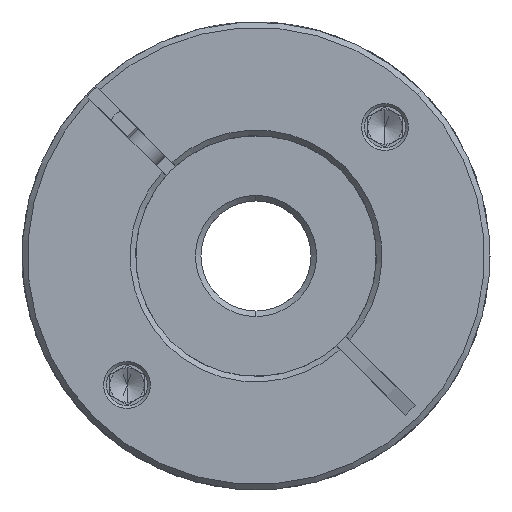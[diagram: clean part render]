
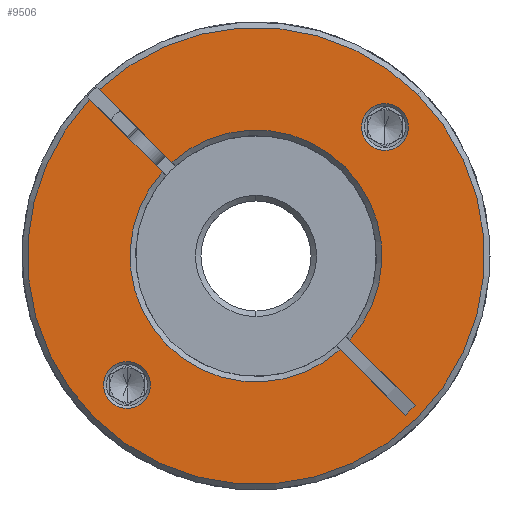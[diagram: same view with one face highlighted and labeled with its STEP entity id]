
A CAD part, front view. The second image highlights one B-rep face of the part: STEP entity #9506.
In plain terms, the highlighted planar face has unit normal (0, -1, 0).
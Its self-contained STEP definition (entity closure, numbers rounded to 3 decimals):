
#96 = DIRECTION ( 'NONE',  ( 0.707, 0., 0.707 ) ) ;
#220 = DIRECTION ( 'NONE',  ( 0.707, 0., 0.707 ) ) ;
#342 = CARTESIAN_POINT ( 'NONE',  ( -21.473, -67.045, 49.262 ) ) ;
#393 = DIRECTION ( 'NONE',  ( 0.707, 0., -0.707 ) ) ;
#405 = VERTEX_POINT ( 'NONE', #14816 ) ;
#559 = EDGE_CURVE ( 'NONE', #2190, #10240, #19103, .T. ) ;
#631 = CARTESIAN_POINT ( 'NONE',  ( 18.407, -67.045, 89.142 ) ) ;
#738 = AXIS2_PLACEMENT_3D ( 'NONE', #14850, #19531, #16256 ) ;
#914 = ORIENTED_EDGE ( 'NONE', *, *, #8185, .T. ) ;
#927 = LINE ( 'NONE', #12163, #19646 ) ;
#975 = LINE ( 'NONE', #12871, #17613 ) ;
#993 = CARTESIAN_POINT ( 'NONE',  ( -2.028, -67.045, 68.707 ) ) ;
#1382 = DIRECTION ( 'NONE',  ( 0.707, 0., 0.707 ) ) ;
#1530 = DIRECTION ( 'NONE',  ( 0., 1., 0. ) ) ;
#1627 = EDGE_CURVE ( 'NONE', #2190, #405, #2920, .T. ) ;
#1674 = CARTESIAN_POINT ( 'NONE',  ( 13.599, -67.045, 84.334 ) ) ;
#1809 = VERTEX_POINT ( 'NONE', #16755 ) ;
#2102 = DIRECTION ( 'NONE',  ( 0., 1., 0. ) ) ;
#2190 = VERTEX_POINT ( 'NONE', #15386 ) ;
#2609 = EDGE_CURVE ( 'NONE', #19974, #10240, #4966, .T. ) ;
#2623 = EDGE_CURVE ( 'NONE', #19974, #6076, #11684, .T. ) ;
#2628 = CIRCLE ( 'NONE', #9920, 33.2 ) ;
#2920 = LINE ( 'NONE', #11613, #13831 ) ;
#3023 = CARTESIAN_POINT ( 'NONE',  ( -2.735, -67.045, 68. ) ) ;
#3102 = DIRECTION ( 'NONE',  ( 0., -1., 0. ) ) ;
#3144 = CARTESIAN_POINT ( 'NONE',  ( -2.735, -67.045, 68. ) ) ;
#3159 = CIRCLE ( 'NONE', #4711, 18.3 ) ;
#3706 = CARTESIAN_POINT ( 'NONE',  ( -23.878, -67.045, 46.858 ) ) ;
#4275 = CARTESIAN_POINT ( 'NONE',  ( 10.893, -67.045, 55.786 ) ) ;
#4328 = CARTESIAN_POINT ( 'NONE',  ( 20.741, -67.045, 91.476 ) ) ;
#4516 = DIRECTION ( 'NONE',  ( 0.707, 0., 0.707 ) ) ;
#4609 = ORIENTED_EDGE ( 'NONE', *, *, #2623, .T. ) ;
#4711 = AXIS2_PLACEMENT_3D ( 'NONE', #3144, #18120, #96 ) ;
#4771 = CARTESIAN_POINT ( 'NONE',  ( -21.473, -67.045, 49.262 ) ) ;
#4864 = CARTESIAN_POINT ( 'NONE',  ( 16.003, -67.045, 86.738 ) ) ;
#4966 = LINE ( 'NONE', #11824, #17469 ) ;
#5051 = CARTESIAN_POINT ( 'NONE',  ( -2.735, -67.045, 68. ) ) ;
#5980 = FACE_BOUND ( 'NONE', #10867, .T. ) ;
#6063 = DIRECTION ( 'NONE',  ( 0.707, 0., 0.707 ) ) ;
#6076 = VERTEX_POINT ( 'NONE', #10558 ) ;
#6298 = EDGE_CURVE ( 'NONE', #16607, #20411, #14135, .T. ) ;
#6371 = ORIENTED_EDGE ( 'NONE', *, *, #11283, .T. ) ;
#6945 = CIRCLE ( 'NONE', #738, 3.4 ) ;
#7334 = AXIS2_PLACEMENT_3D ( 'NONE', #342, #2102, #12524 ) ;
#7337 = CARTESIAN_POINT ( 'NONE',  ( 20.402, -67.045, 46.277 ) ) ;
#7891 = AXIS2_PLACEMENT_3D ( 'NONE', #5051, #18240, #14944 ) ;
#8147 = DIRECTION ( 'NONE',  ( 0.707, 0., -0.707 ) ) ;
#8185 = EDGE_CURVE ( 'NONE', #21511, #1809, #2628, .T. ) ;
#8211 = ORIENTED_EDGE ( 'NONE', *, *, #18362, .T. ) ;
#8296 = EDGE_LOOP ( 'NONE', ( #17797, #4609, #6371, #914, #17972, #13082, #16293, #18611, #15028, #19727, #9440 ) ) ;
#8681 = AXIS2_PLACEMENT_3D ( 'NONE', #17653, #14500, #6063 ) ;
#8915 = DIRECTION ( 'NONE',  ( -0.707, 0., -0.707 ) ) ;
#9440 = ORIENTED_EDGE ( 'NONE', *, *, #559, .T. ) ;
#9506 = ADVANCED_FACE ( 'NONE', ( #5980, #18478, #10611 ), #21117, .T. ) ;
#9920 = AXIS2_PLACEMENT_3D ( 'NONE', #3023, #3102, #1382 ) ;
#9936 = EDGE_LOOP ( 'NONE', ( #8211, #20483 ) ) ;
#10132 = DIRECTION ( 'NONE',  ( 0., 1., 0. ) ) ;
#10210 = CIRCLE ( 'NONE', #15665, 18.3 ) ;
#10240 = VERTEX_POINT ( 'NONE', #18580 ) ;
#10558 = CARTESIAN_POINT ( 'NONE',  ( -26.211, -67.045, 44.524 ) ) ;
#10611 = FACE_OUTER_BOUND ( 'NONE', #8296, .T. ) ;
#10867 = EDGE_LOOP ( 'NONE', ( #20758, #17892 ) ) ;
#11058 = CIRCLE ( 'NONE', #7891, 33.2 ) ;
#11283 = EDGE_CURVE ( 'NONE', #6076, #21511, #11058, .T. ) ;
#11613 = CARTESIAN_POINT ( 'NONE',  ( -3.442, -67.045, 67.293 ) ) ;
#11638 = EDGE_CURVE ( 'NONE', #1809, #14717, #975, .T. ) ;
#11684 = CIRCLE ( 'NONE', #11975, 33.2 ) ;
#11824 = CARTESIAN_POINT ( 'NONE',  ( -3.442, -67.045, 67.293 ) ) ;
#11975 = AXIS2_PLACEMENT_3D ( 'NONE', #20308, #13450, #13738 ) ;
#12163 = CARTESIAN_POINT ( 'NONE',  ( 18.988, -67.045, 44.862 ) ) ;
#12524 = DIRECTION ( 'NONE',  ( 0.707, 0., 0.707 ) ) ;
#12871 = CARTESIAN_POINT ( 'NONE',  ( -2.028, -67.045, 68.707 ) ) ;
#13082 = ORIENTED_EDGE ( 'NONE', *, *, #18655, .T. ) ;
#13319 = EDGE_CURVE ( 'NONE', #16118, #21303, #16117, .T. ) ;
#13450 = DIRECTION ( 'NONE',  ( 0., -1., 0. ) ) ;
#13738 = DIRECTION ( 'NONE',  ( 0.707, 0., 0.707 ) ) ;
#13829 = EDGE_CURVE ( 'NONE', #20411, #16607, #6945, .T. ) ;
#13831 = VECTOR ( 'NONE', #18273, 1000. ) ;
#14135 = CIRCLE ( 'NONE', #20994, 3.4 ) ;
#14289 = DIRECTION ( 'NONE',  ( 0.707, 0., -0.707 ) ) ;
#14352 = CIRCLE ( 'NONE', #7334, 3.4 ) ;
#14500 = DIRECTION ( 'NONE',  ( 0., -1., 0. ) ) ;
#14535 = DIRECTION ( 'NONE',  ( 0.707, 0., 0.707 ) ) ;
#14717 = VERTEX_POINT ( 'NONE', #19647 ) ;
#14816 = CARTESIAN_POINT ( 'NONE',  ( 18.988, -67.045, 44.862 ) ) ;
#14850 = CARTESIAN_POINT ( 'NONE',  ( 16.003, -67.045, 86.738 ) ) ;
#14944 = DIRECTION ( 'NONE',  ( 0.707, 0., 0.707 ) ) ;
#15028 = ORIENTED_EDGE ( 'NONE', *, *, #16191, .T. ) ;
#15386 = CARTESIAN_POINT ( 'NONE',  ( 9.479, -67.045, 54.372 ) ) ;
#15665 = AXIS2_PLACEMENT_3D ( 'NONE', #21100, #17758, #4516 ) ;
#15673 = LINE ( 'NONE', #993, #19043 ) ;
#15860 = EDGE_CURVE ( 'NONE', #16646, #17618, #10210, .T. ) ;
#16117 = CIRCLE ( 'NONE', #16754, 3.4 ) ;
#16118 = VERTEX_POINT ( 'NONE', #3706 ) ;
#16191 = EDGE_CURVE ( 'NONE', #17572, #405, #927, .T. ) ;
#16256 = DIRECTION ( 'NONE',  ( 0.707, 0., 0.707 ) ) ;
#16293 = ORIENTED_EDGE ( 'NONE', *, *, #15860, .T. ) ;
#16607 = VERTEX_POINT ( 'NONE', #1674 ) ;
#16646 = VERTEX_POINT ( 'NONE', #18807 ) ;
#16729 = CARTESIAN_POINT ( 'NONE',  ( -19.069, -67.045, 51.666 ) ) ;
#16754 = AXIS2_PLACEMENT_3D ( 'NONE', #4771, #1530, #19763 ) ;
#16755 = CARTESIAN_POINT ( 'NONE',  ( -25.493, -67.045, 92.172 ) ) ;
#17469 = VECTOR ( 'NONE', #393, 1000. ) ;
#17572 = VERTEX_POINT ( 'NONE', #7337 ) ;
#17613 = VECTOR ( 'NONE', #14289, 1000. ) ;
#17618 = VERTEX_POINT ( 'NONE', #4275 ) ;
#17653 = CARTESIAN_POINT ( 'NONE',  ( -2.735, -67.045, 68. ) ) ;
#17758 = DIRECTION ( 'NONE',  ( 0., 1., 0. ) ) ;
#17797 = ORIENTED_EDGE ( 'NONE', *, *, #2609, .F. ) ;
#17867 = EDGE_CURVE ( 'NONE', #17618, #17572, #15673, .T. ) ;
#17892 = ORIENTED_EDGE ( 'NONE', *, *, #6298, .T. ) ;
#17972 = ORIENTED_EDGE ( 'NONE', *, *, #11638, .T. ) ;
#18098 = DIRECTION ( 'NONE',  ( 0., 1., 0. ) ) ;
#18120 = DIRECTION ( 'NONE',  ( 0., 1., 0. ) ) ;
#18240 = DIRECTION ( 'NONE',  ( 0., -1., 0. ) ) ;
#18273 = DIRECTION ( 'NONE',  ( 0.707, 0., -0.707 ) ) ;
#18362 = EDGE_CURVE ( 'NONE', #21303, #16118, #14352, .T. ) ;
#18478 = FACE_BOUND ( 'NONE', #9936, .T. ) ;
#18580 = CARTESIAN_POINT ( 'NONE',  ( -16.363, -67.045, 80.214 ) ) ;
#18611 = ORIENTED_EDGE ( 'NONE', *, *, #17867, .T. ) ;
#18655 = EDGE_CURVE ( 'NONE', #14717, #16646, #3159, .T. ) ;
#18807 = CARTESIAN_POINT ( 'NONE',  ( 10.205, -67.045, 80.94 ) ) ;
#19043 = VECTOR ( 'NONE', #8147, 1000. ) ;
#19103 = CIRCLE ( 'NONE', #21340, 18.3 ) ;
#19531 = DIRECTION ( 'NONE',  ( 0., 1., 0. ) ) ;
#19646 = VECTOR ( 'NONE', #8915, 1000. ) ;
#19647 = CARTESIAN_POINT ( 'NONE',  ( -14.949, -67.045, 81.628 ) ) ;
#19727 = ORIENTED_EDGE ( 'NONE', *, *, #1627, .F. ) ;
#19763 = DIRECTION ( 'NONE',  ( 0.707, 0., 0.707 ) ) ;
#19974 = VERTEX_POINT ( 'NONE', #21337 ) ;
#20110 = CARTESIAN_POINT ( 'NONE',  ( -2.735, -67.045, 68. ) ) ;
#20308 = CARTESIAN_POINT ( 'NONE',  ( -2.735, -67.045, 68. ) ) ;
#20411 = VERTEX_POINT ( 'NONE', #631 ) ;
#20483 = ORIENTED_EDGE ( 'NONE', *, *, #13319, .T. ) ;
#20758 = ORIENTED_EDGE ( 'NONE', *, *, #13829, .T. ) ;
#20994 = AXIS2_PLACEMENT_3D ( 'NONE', #4864, #18098, #14535 ) ;
#21100 = CARTESIAN_POINT ( 'NONE',  ( -2.735, -67.045, 68. ) ) ;
#21117 = PLANE ( 'NONE',  #8681 ) ;
#21303 = VERTEX_POINT ( 'NONE', #16729 ) ;
#21337 = CARTESIAN_POINT ( 'NONE',  ( -26.908, -67.045, 90.758 ) ) ;
#21340 = AXIS2_PLACEMENT_3D ( 'NONE', #20110, #10132, #220 ) ;
#21511 = VERTEX_POINT ( 'NONE', #4328 ) ;
